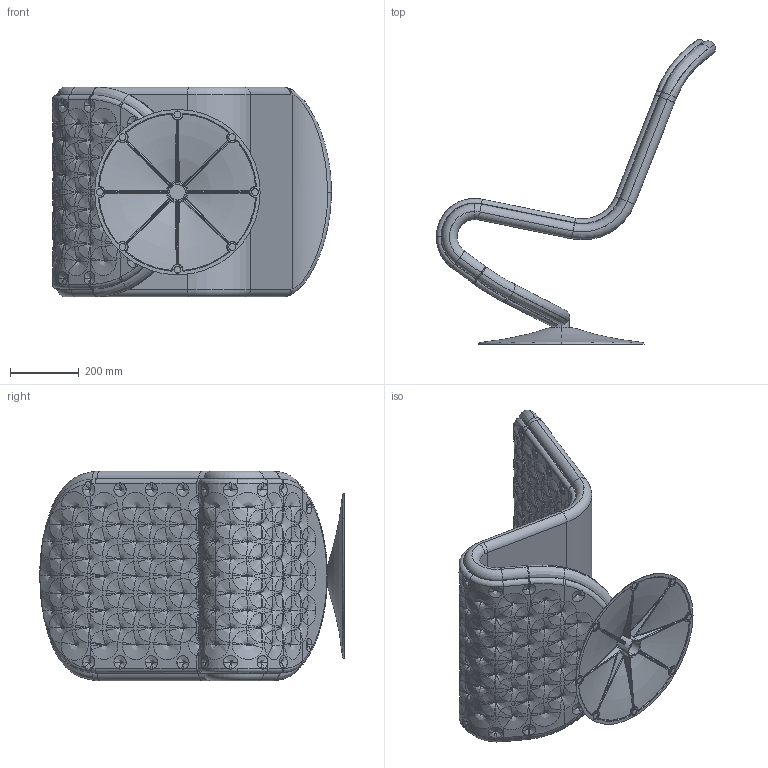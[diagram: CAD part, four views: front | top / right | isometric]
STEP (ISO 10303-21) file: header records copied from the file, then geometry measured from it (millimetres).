
FILE_DESCRIPTION (( 'STEP AP214' ), '1' );
FILE_NAME ('System 1-2-3 Lounge Chair Deluxe.STEP', '2024-04-04T05:58:07', ( '' ), ( '' ), 'SwSTEP 2.0', 'SolidWorks 2022', '' );
FILE_SCHEMA (( 'AUTOMOTIVE_DESIGN' ));
Length unit declared in the file: millimetre
Products named in the file (4): System 1-2-3 Lounge Chair Deluxe; 1-2-3 Lounge Chair - For modling - No real messures; Fod 1-2-3 Stol.step; Foot attachment rood
Assembly tree (3 placements, depth 2):
  System 1-2-3 Lounge Chair Deluxe
    Fod 1-2-3 Stol.step
    1-2-3 Lounge Chair - For modling - No real messures
    Foot attachment rood
Bounding box: 809.63 x 884.06 x 608 mm (x, y, z)
Volume: 51461955.2 mm3; surface area: 2383140.4 mm2
Topology: 3 solids, 3 shells, 2013 faces, 4818 edges, 2776 vertices
Faces by surface type: bspline 1226, cylinder 381, plane 310, torus 46, cone 26, sphere 24
Entity records: 239477 total; most frequent: CARTESIAN_POINT 206443, ORIENTED_EDGE 9550, EDGE_CURVE 4775, B_SPLINE_CURVE_WITH_KNOTS 3096, DIRECTION 3018, VERTEX_POINT 2776, EDGE_LOOP 2023, ADVANCED_FACE 2013
